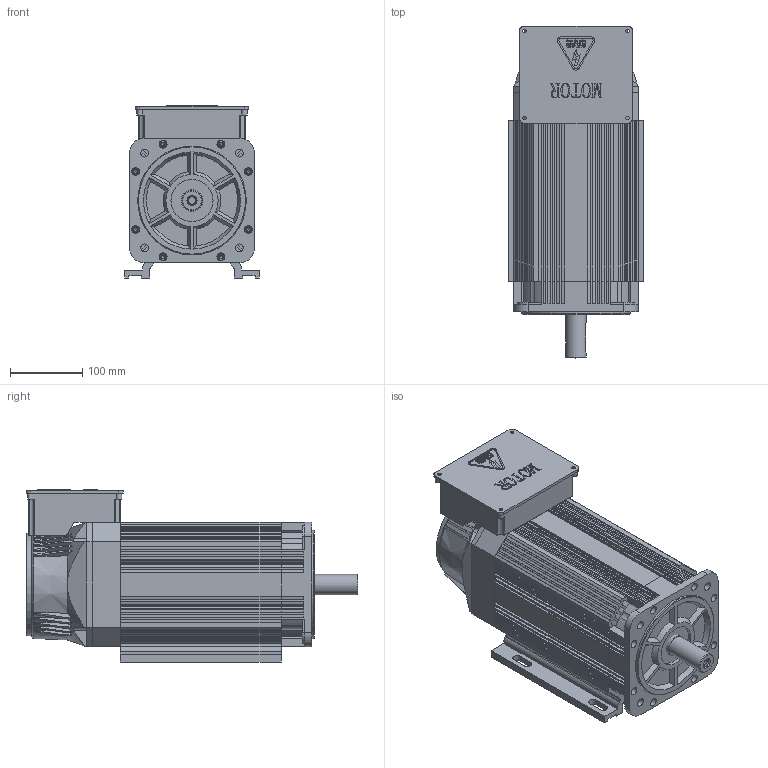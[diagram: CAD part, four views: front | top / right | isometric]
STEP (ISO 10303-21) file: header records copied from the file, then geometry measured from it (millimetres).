
FILE_DESCRIPTION(/* description */ (''),/* implementation_level */ '2;1');
FILE_NAME(/* name */ '172ZJY-4-5.5-15-A(立卧通用).stp',/* time_stamp */ '2024-11-15T13:18:13+08:00',/* author */ (''),/* organization */ (''),/* preprocessor_version */ 'ST-DEVELOPER v18.1',/* originating_system */ 'SIEMENS PLM Software NX 2000',/* authorisation */ '');
FILE_SCHEMA (('AUTOMOTIVE_DESIGN { 1 0 10303 214 3 1 1 1 }'));
Products named in the file (1): 172ZJY-4-5.5-15_立卧通用__stp
Bounding box: 186 x 458 x 237.5 mm (x, y, z)
Volume: 9284939.8 mm3; surface area: 929485.2 mm2
Topology: 15 solids, 15 shells, 2305 faces, 6318 edges, 4159 vertices
Faces by surface type: plane 1346, cylinder 664, extrusion 170, cone 108, torus 17
Full cylindrical faces by diameter (mm): 4.5 x4, 5 x8, 5.3 x8, 5.795 x8, 6 x4, 7 x8, 8 x4, 10 x9, 11 x12, 12 x2, 26 x1, 28 x1, 30 x1, 58 x1, 137 x1, 150 x1
Entity records: 76713 total; most frequent: CARTESIAN_POINT 22016, ORIENTED_EDGE 12300, DIRECTION 9385, EDGE_CURVE 6150, VERTEX_POINT 4114, AXIS2_PLACEMENT_3D 3134, VECTOR 3117, LINE 2947
